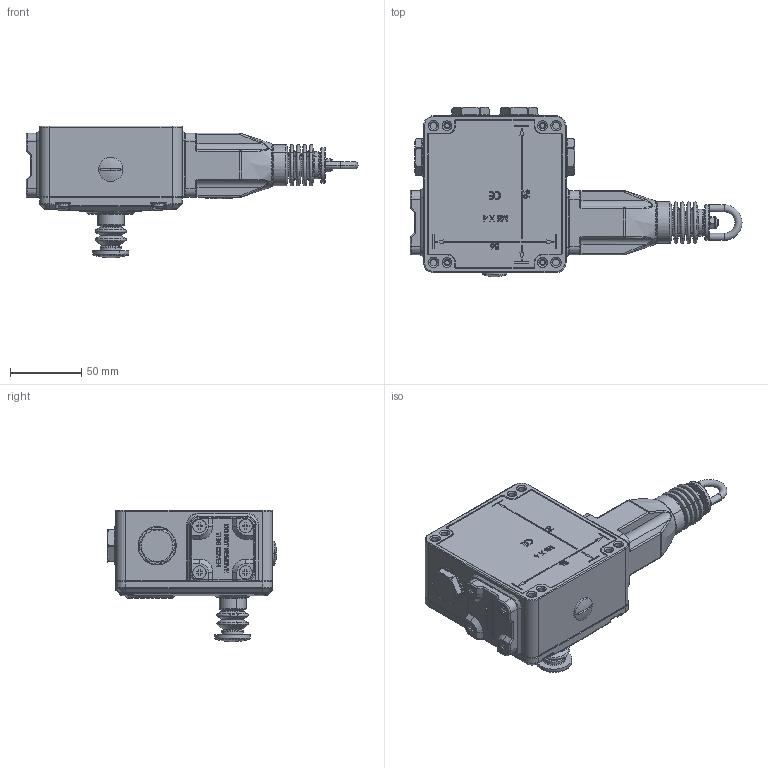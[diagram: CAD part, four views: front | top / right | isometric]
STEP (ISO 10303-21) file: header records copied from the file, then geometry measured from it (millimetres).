
FILE_DESCRIPTION (( 'STEP AP203' ), '1' );
FILE_NAME ('141-GLHL (step format).STEP', '2013-05-25T09:04:13', ( '' ), ( '' ), 'SwSTEP 2.0', 'SolidWorks 2013', '' );
FILE_SCHEMA (( 'CONFIG_CONTROL_DESIGN' ));
Products named in the file (1): 141-GLHL (step format)
Bounding box: 233 x 118.99 x 92.5 mm (x, y, z)
Volume: 287802.2 mm3; surface area: 167890.8 mm2
Topology: 28 solids, 28 shells, 3587 faces, 8496 edges, 5043 vertices
Faces by surface type: cylinder 1096, plane 1006, torus 681, bspline 468, cone 308, sphere 28
Entity records: 122623 total; most frequent: CARTESIAN_POINT 41909, DIRECTION 17087, ORIENTED_EDGE 16852, EDGE_CURVE 8426, AXIS2_PLACEMENT_3D 6752, VERTEX_POINT 5043, EDGE_LOOP 3809, CIRCLE 3632
